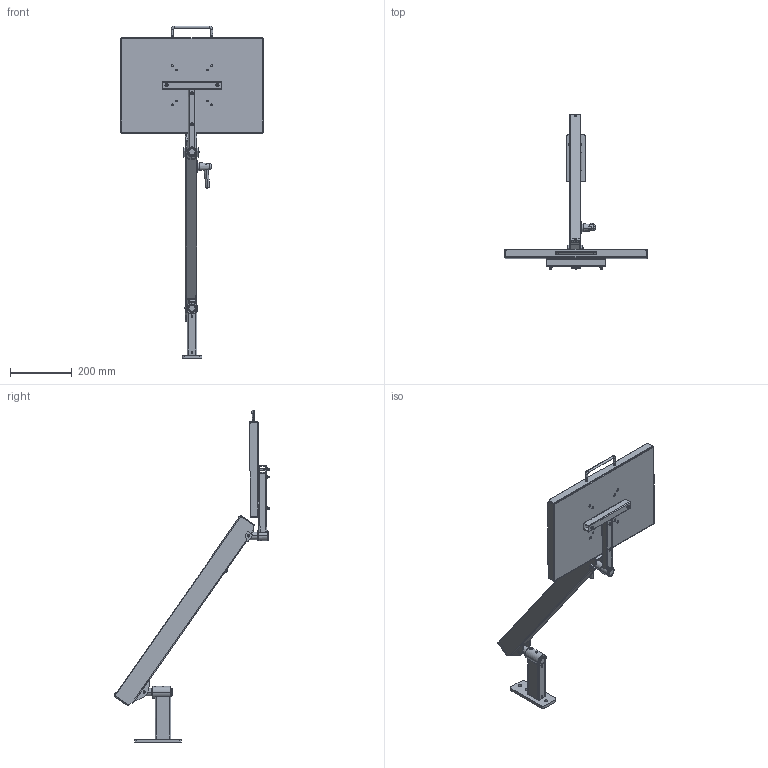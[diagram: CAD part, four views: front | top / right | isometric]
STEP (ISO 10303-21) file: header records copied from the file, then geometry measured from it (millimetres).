
FILE_DESCRIPTION (( 'STEP AP203' ), '1' );
FILE_NAME ('70-0745-00 REV AA, 24in FLEX SYSTEM, TOOL TRAY, WALL MOUNT W EXT - ANGLE DOWN.STEP', '2025-09-17T23:27:37', ( '' ), ( '' ), 'SwSTEP 2.0', 'SolidWorks 2025', '' );
FILE_SCHEMA (( 'CONFIG_CONTROL_DESIGN' ));
Length unit declared in the file: inch
Products named in the file (56): 71-0057-WDX REV AA, GUIDE WELDMENT, 24in DOUBLE SPRING GUIDE; 71-0070-RX REV AA, AXLE PIN, SHORT; 011-033-00; 71-0030-RX REV AA, KNUCKLE, LOAD_MACHINE; 71-0040-RX REV AA, BRAKE BLOCK, WIDE_MACHINE; 013-036-00, SPRING, GREEN, 1x8_ISO425203; 71-0059-RX REV AA, BUSHING, GUIDE, 24in DOUBLE SPRING; 010-011-00, RETAINING RING, EXT, .250 SHAFT_010-011-00; 11-0450-00 REV AA, FOAM, YELLOW, 18x12; 71-0028-RX REV AA, TAB, MOUNT_MACHINE; 71-0052-RX REV AA, HOUSING, T AND STRAIGHT BAR CROSS SECTION_MACHINE; 71-2400-RX REV AA, HOUSING, 24in FLEX; 70-0401-00 REV AA, 18x12 SUPPORT TRAY ASSEMBLY; 007-031-00_007-031-00; 71-0071-RX REV AA, AXLE PIN, LONG; 016-070-00, BEARING, PLASTIC, .5ID x .625 OD x .75; 11-0601-99 REV AA, CONICAL KNOB, BRAKE ASSEMBLY; 71-2113-RX REV AA, HOUSING, BEARING, TALL, 1.5OD_MACHINE; 010-012-00, RETAINING RING, EXTERNAL, .875in SHAFT; 71-0217-RX REV AA, PLATE, NARROW WALL MOUNT_Laser; 005-084-00, BOLT, 1''4-20x2.75; 11-020-RX REV AA, PIN, KNURLED, 1.0LG x .25OD; 004-050-00, WASHER, FIBER, .032 THK, .265ID; 016-008-00, OILITE PLUS BEARING, 0.876 id x 1.002 od x 1.25 lg; 71-0972-99 REV 1, END CAP, FLEX; 70-0050-00 REV AA, T BAR; 002-041-00_002-041-00; 71-0060-00; 006-004-00_006-004-00; 70-0745-00 REV AA, 24in FLEX SYSTEM, TOOL TRAY, WALL MOUNT W EXT - ANGLE DOWN; 025-067-00, HANDLE, U SHAPED, 8-32; 71-1051-RX REV AA, SPRING BLOCK; 71-0031-RX REV AA, KNUCKLE, MOUNT_MACHINE; 002-091-00, FHSCS, 10-32x1.5, BO_002-091-00; 71-0029-RX REV AA, TAB, LOAD; 006-059-00; 70-0095-00 REV AA, STUD MOUNT, 6in EXT; 11-0027-RX REV AA, PLASTIC DISC, BRAKE ASSEMBLY_MACHINE; 007-036-00, SHSS, 1''4-28, .25L_007-036-00; 11-0401-00 REV AA, 18x12 TOOL TRAY, BLACK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
Assembly tree (89 placements, depth 4):
  70-0745-00 REV AA, 24in FLEX SYSTEM, TOOL TRAY, WALL MOUNT W EXT - ANGLE DOWN
    70-0095-00 REV AA, STUD MOUNT, 6in EXT
      71-0217-RX REV AA, PLATE, NARROW WALL MOUNT_Laser
      71-0091-RX REV AA, HOUSING, WALL MOUNT, 6in EXTENSION
      71-2113-RX REV AA, HOUSING, BEARING, TALL, 1.5OD_MACHINE
      016-007-00, OILITE PLUS BEARING, 0.876 id x 1.002 od x 0.75 lg
      016-008-00, OILITE PLUS BEARING, 0.876 id x 1.002 od x 1.25 lg
      007-036-00, SHSS, 1''4-28, .25L_007-036-00
    70-2445-00 REV AA,  FLEX SECTION, 24in, 20-45 LB
      71-0031-RX REV AA, KNUCKLE, MOUNT_MACHINE
      71-1051-RX REV AA, SPRING BLOCK
      71-3032-RX REV AA, SPRING ROD, 24in FLEX
      71-0030-RX REV AA, KNUCKLE, LOAD_MACHINE
      71-0038-RX REV AA, PIVOT, KNUCKLE, ELECTROLESS NICKEL
      71-0037-75 REV 1, PIVOT, THREADED, SS_MACHINE
      71-0040-RX REV AA, BRAKE BLOCK, WIDE_MACHINE
      71-2033-99 REV AA, BOLT, ADJUSTING, 12.120
      71-2401-BLKX REV AA, FLEX HOUSING, 24in, BLACK
        71-2400-RX REV AA, HOUSING, 24in FLEX
        71-0029-RX REV AA, TAB, LOAD  x2
        71-0028-RX REV AA, TAB, MOUNT_MACHINE  x2
      71-0070-RX REV AA, AXLE PIN, SHORT
      71-0071-RX REV AA, AXLE PIN, LONG
      71-0972-99 REV 1, END CAP, FLEX  x2
      11-0027-RX REV AA, PLASTIC DISC, BRAKE ASSEMBLY_MACHINE
      71-0057-WDX REV AA, GUIDE WELDMENT, 24in DOUBLE SPRING GUIDE
        71-0058-RX REV AA, BAR, GUIDE, 24in DOUBLE SPRING
        71-0059-RX REV AA, BUSHING, GUIDE, 24in DOUBLE SPRING  x2
      71-0060-00  x2
      11-0650-00 REV AA, BRAKE HANDLE ASSEMBLY
        11-0601-99 REV AA, CONICAL KNOB, BRAKE ASSEMBLY
        11-0602-RX REV AA, HANDLE, BRAKE ASSEMBLY
        11-0027-RX REV AA, PLASTIC DISC, BRAKE ASSEMBLY_MACHINE
        005-084-00, BOLT, 1''4-20x2.75
      010-012-00, RETAINING RING, EXTERNAL, .875in SHAFT  x2
      013-036-00, SPRING, GREEN, 1x8_ISO425203  x2
      010-011-00, RETAINING RING, EXT, .250 SHAFT_010-011-00  x4
      007-036-00, SHSS, 1''4-28, .25L_007-036-00
      016-070-00, BEARING, PLASTIC, .5ID x .625 OD x .75  x2
      004-050-00, WASHER, FIBER, .032 THK, .265ID  x8
      011-033-00  x2
      11-020-RX REV AA, PIN, KNURLED, 1.0LG x .25OD  x2
      004-144-00  x3
      006-059-00
      006-004-00_006-004-00  x2
      002-041-00_002-041-00  x2
    70-0401-00 REV AA, 18x12 SUPPORT TRAY ASSEMBLY
      11-0401-00 REV AA, 18x12 TOOL TRAY, BLACK
      70-0050-00 REV AA, T BAR
        71-0047-RX REV AA, HOUSING, T AND STRAIGHT BAR_MACHINE
        71-0013-RX REV AA, HOUSING, BEARING, SHORT_MACHINE
        71-0052-RX REV AA, HOUSING, T AND STRAIGHT BAR CROSS SECTION_MACHINE
        016-008-00, OILITE PLUS BEARING, 0.876 id x 1.002 od x 1.25 lg
        007-031-00_007-031-00
      002-091-00, FHSCS, 10-32x1.5, BO_002-091-00  x4
      006-008-00, NUT, HEX, 10-32 x .125_006-008-00  x4
      025-067-00, HANDLE, U SHAPED, 8-32
      002-100-00, BHSCS, 8-32x.375_002-100-00  x2
      11-0450-00 REV AA, FOAM, YELLOW, 18x12
Bounding box: 461.77 x 505.06 x 1078.18 mm (x, y, z)
Volume: 1854851 mm3; surface area: 1301686.2 mm2
Topology: 85 solids, 85 shells, 2172 faces, 5259 edges, 3255 vertices
Faces by surface type: cylinder 949, plane 600, cone 459, torus 89, bspline 65, sphere 10
Entity records: 91868 total; most frequent: CARTESIAN_POINT 54749, ORIENTED_EDGE 6330, DIRECTION 6301, EDGE_CURVE 3165, AXIS2_PLACEMENT_3D 2443, VERTEX_POINT 1971, EDGE_LOOP 1472, LINE 1415
